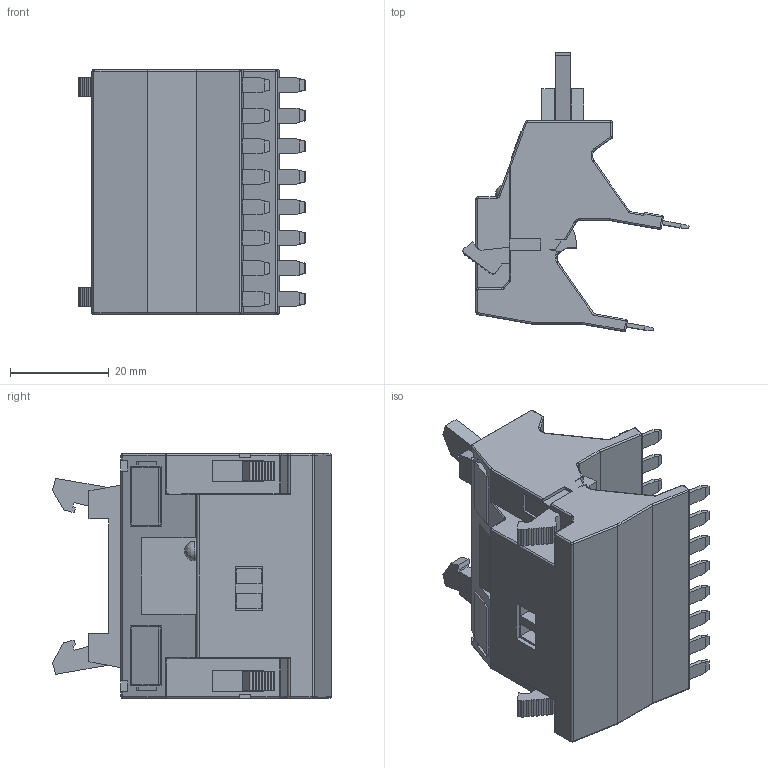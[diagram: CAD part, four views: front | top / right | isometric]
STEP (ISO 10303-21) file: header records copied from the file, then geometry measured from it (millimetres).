
FILE_DESCRIPTION(('STEP AP214'),'2;1');
FILE_NAME('093.68---catalogo.stp','2011-03-31T08:32:49',(''),(''),'2007.1.106','THINKDESIGN','');
FILE_SCHEMA(('AUTOMOTIVE_DESIGN'));
Length unit declared in the file: millimetre
Products named in the file (1): None
Bounding box: 45.97 x 56.67 x 49.6 mm (x, y, z)
Surface area: 16347.9 mm2 (no closed solid volume)
Topology: 0 solids, 0 shells, 580 faces, 3142 edges, 3121 vertices
Faces by surface type: plane 414, cylinder 131, bspline 35
Full cylindrical faces by diameter (mm): 0.65 x14, 2.5 x4, 4 x3
Entity records: 32369 total; most frequent: CARTESIAN_POINT 9434, DIRECTION 4083, COMPOSITE_CURVE_SEGMENT 3128, TRIMMED_CURVE 2712, VECTOR 2431, LINE 2431, AXIS2_PLACEMENT_3D 826, OUTER_BOUNDARY_CURVE 580
